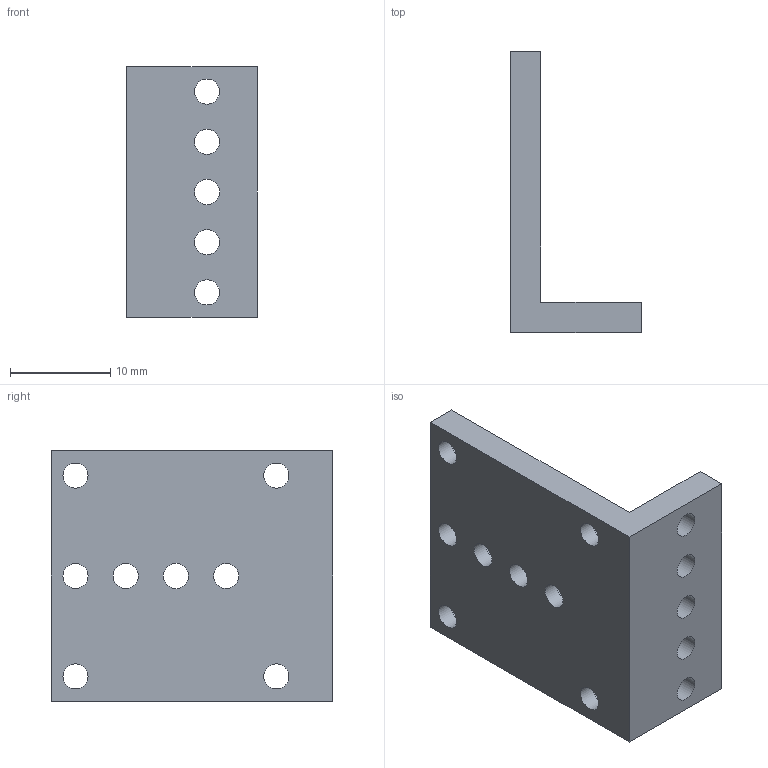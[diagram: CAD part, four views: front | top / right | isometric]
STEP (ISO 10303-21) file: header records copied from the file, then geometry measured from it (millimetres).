
FILE_DESCRIPTION((''),'2;1');
FILE_NAME('D:\Darius\Schemos\02\sarasas\02\2AB\2AB128\breziniai\step\2AB128.stp','2012-08-16T10:01:36',('Darius'),(''),'Autodesk Inventor 2011','Autodesk Inventor 2011','');
FILE_SCHEMA(('AUTOMOTIVE_DESIGN { 1 0 10303 214 1 1 1 1 }'));
Length unit declared in the file: millimetre
Products named in the file (1): Part2
Bounding box: 13 x 28 x 25 mm (x, y, z)
Volume: 2594.2 mm3; surface area: 2496.3 mm2
Topology: 1 solids, 1 shells, 33 faces, 82 edges, 57 vertices
Faces by surface type: cylinder 19, plane 14
Full cylindrical faces by diameter (mm): 2.5 x13, 4 x6
Entity records: 930 total; most frequent: DIRECTION 162, CARTESIAN_POINT 140, ORIENTED_EDGE 112, EDGE_LOOP 84, AXIS2_PLACEMENT_3D 72, EDGE_CURVE 56, FACE_BOUND 51, VERTEX_POINT 50
